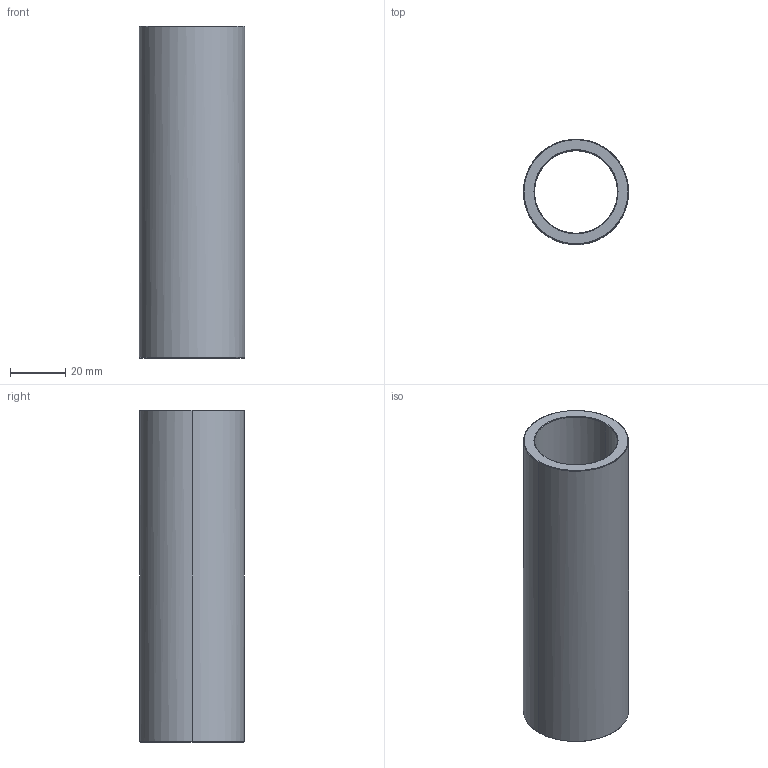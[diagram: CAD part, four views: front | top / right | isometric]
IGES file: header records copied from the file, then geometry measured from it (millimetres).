
Start section: Write IGES format                                    datakit 2008 (c)
Global section: file name: Unknown; native system: DATAKIT Converter; preprocessor: Unknown; author: Unknown; organization: Unknown; date: 950613.180003; units: millimetre
Bounding box: 38 x 37.93 x 120 mm (x, y, z)
Surface area: 26439.9 mm2 (no closed solid volume)
Topology: 0 solids, 0 shells, 14 faces, 56 edges, 56 vertices
Faces by surface type: revolution 12, bspline 2
